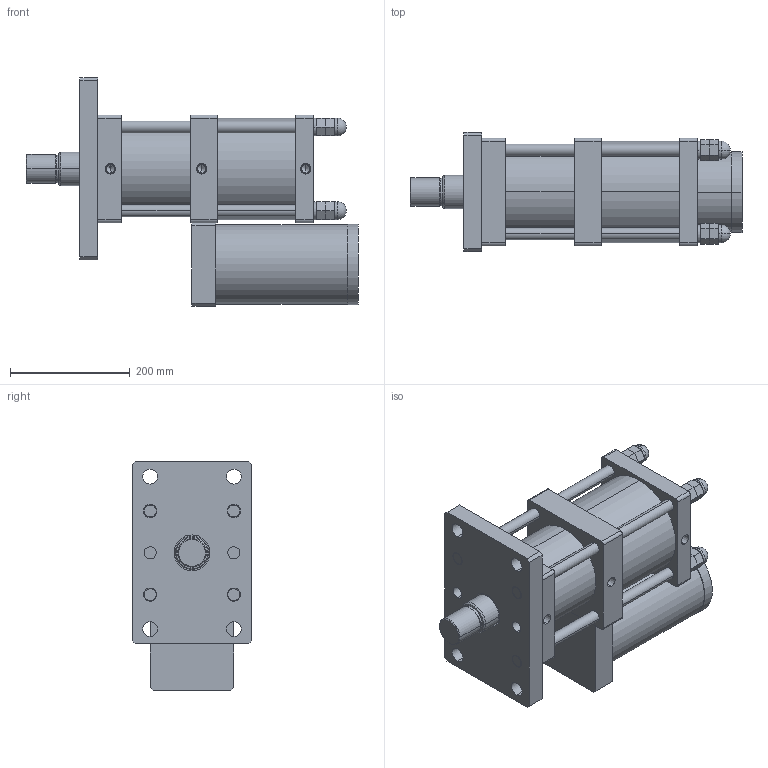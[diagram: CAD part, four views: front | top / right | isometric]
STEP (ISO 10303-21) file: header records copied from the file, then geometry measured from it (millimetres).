
FILE_DESCRIPTION (( 'STEP AP203' ), '1' );
FILE_NAME ('MPT-125-50-5-15T.STEP', '2016-03-11T09:05:27', ( 'WIN' ), ( '' ), 'SwSTEP 2.0', 'SolidWorks 2014', '' );
FILE_SCHEMA (( 'CONFIG_CONTROL_DESIGN' ));
Length unit declared in the file: millimetre
Products named in the file (1): MPT-125-50-5-15T
Bounding box: 555.5 x 200 x 382.5 mm (x, y, z)
Volume: 12297720.6 mm3; surface area: 1002544.3 mm2
Topology: 12 solids, 12 shells, 379 faces, 930 edges, 542 vertices
Faces by surface type: plane 147, cylinder 118, bspline 48, cone 30, torus 28, sphere 8
Entity records: 12241 total; most frequent: CARTESIAN_POINT 3596, DIRECTION 1836, ORIENTED_EDGE 1716, EDGE_CURVE 858, AXIS2_PLACEMENT_3D 694, VERTEX_POINT 534, VECTOR 448, LINE 448
